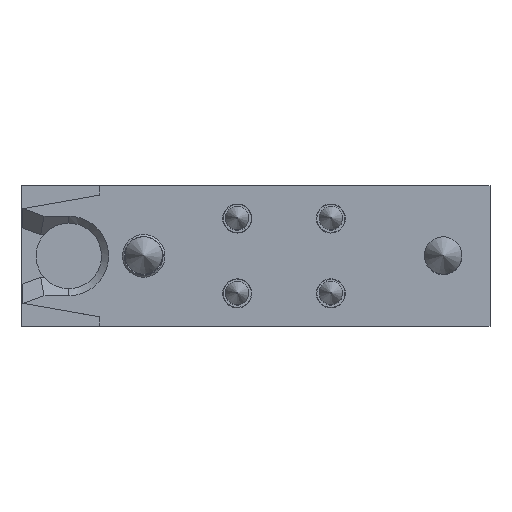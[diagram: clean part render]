
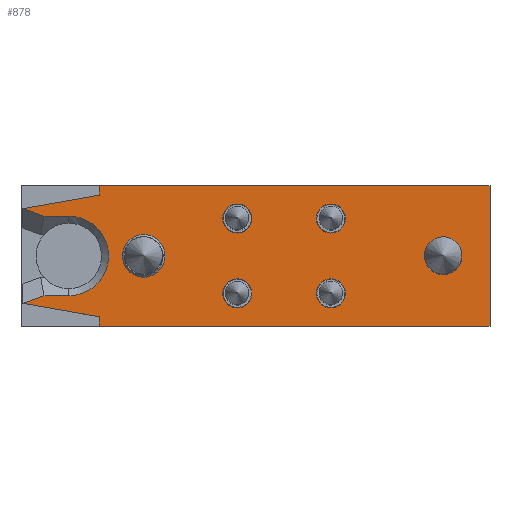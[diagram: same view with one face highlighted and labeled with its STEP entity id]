
A CAD part, top view. The second image highlights one B-rep face of the part: STEP entity #878.
In plain terms, the highlighted planar face has unit normal (0, 0, 1) as drawn and (0, 0, -1) by its records, which use the part's own axes.
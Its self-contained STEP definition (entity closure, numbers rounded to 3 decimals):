
#119=CIRCLE('',#1001,3.1);
#120=CIRCLE('',#1002,3.1);
#121=CIRCLE('',#1003,3.1);
#122=CIRCLE('',#1004,3.1);
#123=CIRCLE('',#1005,4.55);
#124=CIRCLE('',#1006,4.);
#125=CIRCLE('',#1007,8.5);
#169=ORIENTED_EDGE('',*,*,#361,.T.);
#170=ORIENTED_EDGE('',*,*,#362,.T.);
#171=ORIENTED_EDGE('',*,*,#363,.T.);
#172=ORIENTED_EDGE('',*,*,#364,.T.);
#173=ORIENTED_EDGE('',*,*,#365,.T.);
#174=ORIENTED_EDGE('',*,*,#366,.T.);
#175=ORIENTED_EDGE('',*,*,#367,.F.);
#176=ORIENTED_EDGE('',*,*,#368,.T.);
#177=ORIENTED_EDGE('',*,*,#369,.T.);
#178=ORIENTED_EDGE('',*,*,#370,.T.);
#179=ORIENTED_EDGE('',*,*,#371,.T.);
#180=ORIENTED_EDGE('',*,*,#372,.T.);
#181=ORIENTED_EDGE('',*,*,#373,.T.);
#182=ORIENTED_EDGE('',*,*,#374,.T.);
#183=ORIENTED_EDGE('',*,*,#375,.F.);
#184=ORIENTED_EDGE('',*,*,#376,.F.);
#185=ORIENTED_EDGE('',*,*,#377,.F.);
#186=ORIENTED_EDGE('',*,*,#378,.F.);
#361=EDGE_CURVE('',#457,#457,#119,.T.);
#362=EDGE_CURVE('',#458,#458,#120,.T.);
#363=EDGE_CURVE('',#459,#459,#121,.T.);
#364=EDGE_CURVE('',#460,#460,#122,.T.);
#365=EDGE_CURVE('',#461,#461,#123,.T.);
#366=EDGE_CURVE('',#462,#462,#124,.T.);
#367=EDGE_CURVE('',#463,#464,#536,.T.);
#368=EDGE_CURVE('',#463,#465,#537,.T.);
#369=EDGE_CURVE('',#465,#466,#538,.T.);
#370=EDGE_CURVE('',#466,#467,#539,.T.);
#371=EDGE_CURVE('',#467,#468,#540,.T.);
#372=EDGE_CURVE('',#468,#469,#125,.T.);
#373=EDGE_CURVE('',#469,#470,#541,.T.);
#374=EDGE_CURVE('',#470,#471,#542,.T.);
#375=EDGE_CURVE('',#472,#471,#543,.T.);
#376=EDGE_CURVE('',#473,#472,#544,.T.);
#377=EDGE_CURVE('',#474,#473,#545,.T.);
#378=EDGE_CURVE('',#464,#474,#546,.T.);
#457=VERTEX_POINT('',#1429);
#458=VERTEX_POINT('',#1431);
#459=VERTEX_POINT('',#1433);
#460=VERTEX_POINT('',#1435);
#461=VERTEX_POINT('',#1437);
#462=VERTEX_POINT('',#1439);
#463=VERTEX_POINT('',#1441);
#464=VERTEX_POINT('',#1442);
#465=VERTEX_POINT('',#1444);
#466=VERTEX_POINT('',#1446);
#467=VERTEX_POINT('',#1448);
#468=VERTEX_POINT('',#1450);
#469=VERTEX_POINT('',#1452);
#470=VERTEX_POINT('',#1454);
#471=VERTEX_POINT('',#1456);
#472=VERTEX_POINT('',#1458);
#473=VERTEX_POINT('',#1460);
#474=VERTEX_POINT('',#1462);
#536=LINE('',#1440,#586);
#537=LINE('',#1443,#587);
#538=LINE('',#1445,#588);
#539=LINE('',#1447,#589);
#540=LINE('',#1449,#590);
#541=LINE('',#1453,#591);
#542=LINE('',#1455,#592);
#543=LINE('',#1457,#593);
#544=LINE('',#1459,#594);
#545=LINE('',#1461,#595);
#546=LINE('',#1463,#596);
#586=VECTOR('',#1143,1000.);
#587=VECTOR('',#1144,1000.);
#588=VECTOR('',#1145,1000.);
#589=VECTOR('',#1146,1000.);
#590=VECTOR('',#1147,1000.);
#591=VECTOR('',#1150,1000.);
#592=VECTOR('',#1151,1000.);
#593=VECTOR('',#1152,1000.);
#594=VECTOR('',#1153,1000.);
#595=VECTOR('',#1154,1000.);
#596=VECTOR('',#1155,1000.);
#633=EDGE_LOOP('',(#169));
#634=EDGE_LOOP('',(#170));
#635=EDGE_LOOP('',(#171));
#636=EDGE_LOOP('',(#172));
#637=EDGE_LOOP('',(#173));
#638=EDGE_LOOP('',(#174));
#639=EDGE_LOOP('',(#175,#176,#177,#178,#179,#180,#181,#182,#183,#184,#185,
#186));
#740=FACE_BOUND('',#633,.T.);
#741=FACE_BOUND('',#634,.T.);
#742=FACE_BOUND('',#635,.T.);
#743=FACE_BOUND('',#636,.T.);
#744=FACE_BOUND('',#637,.T.);
#745=FACE_BOUND('',#638,.T.);
#746=FACE_BOUND('',#639,.T.);
#849=PLANE('',#1000);
#878=ADVANCED_FACE('',(#740,#741,#742,#743,#744,#745,#746),#849,.F.);
#1000=AXIS2_PLACEMENT_3D('',#1427,#1129,#1130);
#1001=AXIS2_PLACEMENT_3D('',#1428,#1131,#1132);
#1002=AXIS2_PLACEMENT_3D('',#1430,#1133,#1134);
#1003=AXIS2_PLACEMENT_3D('',#1432,#1135,#1136);
#1004=AXIS2_PLACEMENT_3D('',#1434,#1137,#1138);
#1005=AXIS2_PLACEMENT_3D('',#1436,#1139,#1140);
#1006=AXIS2_PLACEMENT_3D('',#1438,#1141,#1142);
#1007=AXIS2_PLACEMENT_3D('',#1451,#1148,#1149);
#1129=DIRECTION('',(0.,0.,1.));
#1130=DIRECTION('',(1.,0.,0.));
#1131=DIRECTION('',(0.,0.,1.));
#1132=DIRECTION('',(1.,0.,0.));
#1133=DIRECTION('',(0.,0.,1.));
#1134=DIRECTION('',(1.,0.,0.));
#1135=DIRECTION('',(0.,0.,1.));
#1136=DIRECTION('',(1.,0.,0.));
#1137=DIRECTION('',(0.,0.,1.));
#1138=DIRECTION('',(1.,0.,0.));
#1139=DIRECTION('',(0.,0.,1.));
#1140=DIRECTION('',(1.,0.,0.));
#1141=DIRECTION('',(0.,0.,1.));
#1142=DIRECTION('',(1.,0.,0.));
#1143=DIRECTION('',(-1.,0.,0.));
#1144=DIRECTION('',(0.,-1.,0.));
#1145=DIRECTION('',(0.985,-0.174,0.));
#1146=DIRECTION('',(-0.94,-0.342,0.));
#1147=DIRECTION('',(-1.,0.,0.));
#1148=DIRECTION('',(0.,0.,1.));
#1149=DIRECTION('',(1.,0.,0.));
#1150=DIRECTION('',(1.,0.,0.));
#1151=DIRECTION('',(0.94,-0.342,0.));
#1152=DIRECTION('',(0.985,0.174,0.));
#1153=DIRECTION('',(0.,1.,0.));
#1154=DIRECTION('',(1.,0.,0.));
#1155=DIRECTION('',(0.,-1.,0.));
#1427=CARTESIAN_POINT('',(-50.,15.,-5.));
#1428=CARTESIAN_POINT('',(-16.,8.,-5.));
#1429=CARTESIAN_POINT('',(-12.9,8.,-5.));
#1430=CARTESIAN_POINT('',(-16.,-8.,-5.));
#1431=CARTESIAN_POINT('',(-12.9,-8.,-5.));
#1432=CARTESIAN_POINT('',(4.,8.,-5.));
#1433=CARTESIAN_POINT('',(7.1,8.,-5.));
#1434=CARTESIAN_POINT('',(4.,-8.,-5.));
#1435=CARTESIAN_POINT('',(7.1,-8.,-5.));
#1436=CARTESIAN_POINT('',(24.,0.,-5.));
#1437=CARTESIAN_POINT('',(28.55,0.,-5.));
#1438=CARTESIAN_POINT('',(-40.,0.,-5.));
#1439=CARTESIAN_POINT('',(-36.,0.,-5.));
#1440=CARTESIAN_POINT('',(50.,15.,-5.));
#1441=CARTESIAN_POINT('',(33.5,15.,-5.));
#1442=CARTESIAN_POINT('',(-50.,15.,-5.));
#1443=CARTESIAN_POINT('',(33.5,15.,-5.));
#1444=CARTESIAN_POINT('',(33.5,13.,-5.));
#1445=CARTESIAN_POINT('',(-47.824,27.34,-5.));
#1446=CARTESIAN_POINT('',(49.78,10.129,-5.));
#1447=CARTESIAN_POINT('',(44.649,8.262,-5.));
#1448=CARTESIAN_POINT('',(45.304,8.5,-5.));
#1449=CARTESIAN_POINT('',(40.,8.5,-5.));
#1450=CARTESIAN_POINT('',(40.,8.5,-5.));
#1451=CARTESIAN_POINT('',(40.,0.,-5.));
#1452=CARTESIAN_POINT('',(40.,-8.5,-5.));
#1453=CARTESIAN_POINT('',(46.,-8.5,-5.));
#1454=CARTESIAN_POINT('',(45.304,-8.5,-5.));
#1455=CARTESIAN_POINT('',(48.649,-9.718,-5.));
#1456=CARTESIAN_POINT('',(49.78,-10.129,-5.));
#1457=CARTESIAN_POINT('',(-42.694,-26.435,-5.));
#1458=CARTESIAN_POINT('',(33.5,-13.,-5.));
#1459=CARTESIAN_POINT('',(33.5,15.,-5.));
#1460=CARTESIAN_POINT('',(33.5,-15.,-5.));
#1461=CARTESIAN_POINT('',(-50.,-15.,-5.));
#1462=CARTESIAN_POINT('',(-50.,-15.,-5.));
#1463=CARTESIAN_POINT('',(-50.,15.,-5.));
